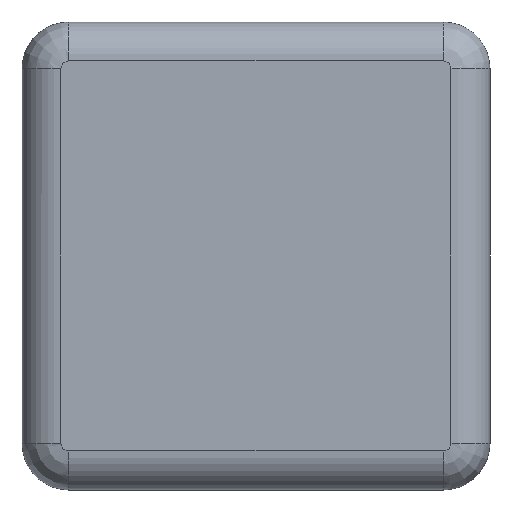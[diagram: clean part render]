
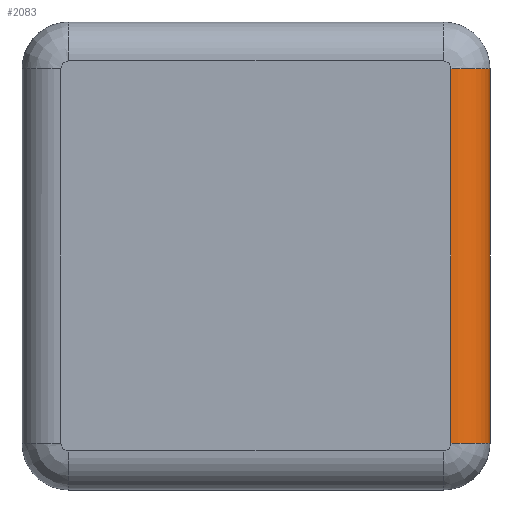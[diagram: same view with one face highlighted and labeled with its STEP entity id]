
A CAD part, front view. The second image highlights one B-rep face of the part: STEP entity #2083.
In plain terms, the highlighted cylindrical face has radius 2.5 mm (diameter 5 mm), a partial arc.
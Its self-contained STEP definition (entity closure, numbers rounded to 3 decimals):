
#613 = PLANE('',#614);
#614 = AXIS2_PLACEMENT_3D('',#615,#616,#617);
#615 = CARTESIAN_POINT('',(15.,-3.,12.));
#616 = DIRECTION('',(1.,-0.,0.));
#617 = DIRECTION('',(0.,0.,-1.));
#923 = VERTEX_POINT('',#924);
#924 = CARTESIAN_POINT('',(15.,-0.5,-12.));
#960 = SURFACE_OF_REVOLUTION('',#961,#974);
#961 = B_SPLINE_CURVE_WITH_KNOTS('',6,(#962,#963,#964,#965,#966,#967,
    #968,#969,#970,#971,#972,#973),.UNSPECIFIED.,.F.,.F.,(7,5,7),(
    4.712,5.498,6.283),.UNSPECIFIED.);
#962 = CARTESIAN_POINT('',(12.,-3.,-11.5));
#963 = CARTESIAN_POINT('',(12.,-3.,-11.173));
#964 = CARTESIAN_POINT('',(12.,-2.949,-10.846));
#965 = CARTESIAN_POINT('',(12.,-2.846,-10.528));
#966 = CARTESIAN_POINT('',(12.,-2.694,-10.231));
#967 = CARTESIAN_POINT('',(12.,-2.499,-9.964));
#968 = CARTESIAN_POINT('',(12.,-2.036,-9.501));
#969 = CARTESIAN_POINT('',(12.,-1.769,-9.306));
#970 = CARTESIAN_POINT('',(12.,-1.472,-9.154));
#971 = CARTESIAN_POINT('',(12.,-1.154,-9.051));
#972 = CARTESIAN_POINT('',(12.,-0.827,-9.));
#973 = CARTESIAN_POINT('',(12.,-0.5,-9.));
#974 = AXIS1_PLACEMENT('',#975,#976);
#975 = CARTESIAN_POINT('',(12.,-0.5,-12.));
#976 = DIRECTION('',(0.,1.,0.));
#990 = VERTEX_POINT('',#991);
#991 = CARTESIAN_POINT('',(15.,-0.5,12.));
#1012 = EDGE_CURVE('',#990,#923,#1013,.T.);
#1013 = SURFACE_CURVE('',#1014,(#1018,#1025),.PCURVE_S1.);
#1014 = LINE('',#1015,#1016);
#1015 = CARTESIAN_POINT('',(15.,-0.5,-12.));
#1016 = VECTOR('',#1017,1.);
#1017 = DIRECTION('',(0.,0.,-1.));
#1018 = PCURVE('',#613,#1019);
#1019 = DEFINITIONAL_REPRESENTATION('',(#1020),#1024);
#1020 = LINE('',#1021,#1022);
#1021 = CARTESIAN_POINT('',(24.,2.5));
#1022 = VECTOR('',#1023,1.);
#1023 = DIRECTION('',(1.,0.));
#1024 = ( GEOMETRIC_REPRESENTATION_CONTEXT(2) 
PARAMETRIC_REPRESENTATION_CONTEXT() REPRESENTATION_CONTEXT('2D SPACE',''
  ) );
#1025 = PCURVE('',#1026,#1031);
#1026 = CYLINDRICAL_SURFACE('',#1027,2.5);
#1027 = AXIS2_PLACEMENT_3D('',#1028,#1029,#1030);
#1028 = CARTESIAN_POINT('',(12.5,-0.5,12.));
#1029 = DIRECTION('',(0.,0.,1.));
#1030 = DIRECTION('',(1.,0.,0.));
#1031 = DEFINITIONAL_REPRESENTATION('',(#1032),#1036);
#1032 = LINE('',#1033,#1034);
#1033 = CARTESIAN_POINT('',(6.283,-24.));
#1034 = VECTOR('',#1035,1.);
#1035 = DIRECTION('',(0.,-1.));
#1036 = ( GEOMETRIC_REPRESENTATION_CONTEXT(2) 
PARAMETRIC_REPRESENTATION_CONTEXT() REPRESENTATION_CONTEXT('2D SPACE',''
  ) );
#1081 = SURFACE_OF_REVOLUTION('',#1082,#1095);
#1082 = B_SPLINE_CURVE_WITH_KNOTS('',6,(#1083,#1084,#1085,#1086,#1087,
    #1088,#1089,#1090,#1091,#1092,#1093,#1094),.UNSPECIFIED.,.F.,.F.,(7,
    5,7),(4.712,5.498,6.283),.UNSPECIFIED.);
#1083 = CARTESIAN_POINT('',(12.,-3.,12.5));
#1084 = CARTESIAN_POINT('',(12.,-3.,12.827));
#1085 = CARTESIAN_POINT('',(12.,-2.949,13.154));
#1086 = CARTESIAN_POINT('',(12.,-2.846,13.472));
#1087 = CARTESIAN_POINT('',(12.,-2.694,13.769));
#1088 = CARTESIAN_POINT('',(12.,-2.499,14.036));
#1089 = CARTESIAN_POINT('',(12.,-2.036,14.499));
#1090 = CARTESIAN_POINT('',(12.,-1.769,14.694));
#1091 = CARTESIAN_POINT('',(12.,-1.472,14.846));
#1092 = CARTESIAN_POINT('',(12.,-1.154,14.949));
#1093 = CARTESIAN_POINT('',(12.,-0.827,15.));
#1094 = CARTESIAN_POINT('',(12.,-0.5,15.));
#1095 = AXIS1_PLACEMENT('',#1096,#1097);
#1096 = CARTESIAN_POINT('',(12.,-0.5,12.));
#1097 = DIRECTION('',(0.,1.,0.));
#1275 = PLANE('',#1276);
#1276 = AXIS2_PLACEMENT_3D('',#1277,#1278,#1279);
#1277 = CARTESIAN_POINT('',(-12.,-3.,-12.));
#1278 = DIRECTION('',(0.,1.,0.));
#1279 = DIRECTION('',(0.,-0.,1.));
#1373 = VERTEX_POINT('',#1374);
#1374 = CARTESIAN_POINT('',(12.5,-3.,-12.));
#1400 = EDGE_CURVE('',#1373,#1401,#1403,.T.);
#1401 = VERTEX_POINT('',#1402);
#1402 = CARTESIAN_POINT('',(12.5,-3.,12.));
#1403 = SURFACE_CURVE('',#1404,(#1408,#1415),.PCURVE_S1.);
#1404 = LINE('',#1405,#1406);
#1405 = CARTESIAN_POINT('',(12.5,-3.,12.));
#1406 = VECTOR('',#1407,1.);
#1407 = DIRECTION('',(0.,-0.,1.));
#1408 = PCURVE('',#1275,#1409);
#1409 = DEFINITIONAL_REPRESENTATION('',(#1410),#1414);
#1410 = LINE('',#1411,#1412);
#1411 = CARTESIAN_POINT('',(24.,24.5));
#1412 = VECTOR('',#1413,1.);
#1413 = DIRECTION('',(1.,0.));
#1414 = ( GEOMETRIC_REPRESENTATION_CONTEXT(2) 
PARAMETRIC_REPRESENTATION_CONTEXT() REPRESENTATION_CONTEXT('2D SPACE',''
  ) );
#1415 = PCURVE('',#1026,#1416);
#1416 = DEFINITIONAL_REPRESENTATION('',(#1417),#1421);
#1417 = LINE('',#1418,#1419);
#1418 = CARTESIAN_POINT('',(4.712,0.));
#1419 = VECTOR('',#1420,1.);
#1420 = DIRECTION('',(0.,1.));
#1421 = ( GEOMETRIC_REPRESENTATION_CONTEXT(2) 
PARAMETRIC_REPRESENTATION_CONTEXT() REPRESENTATION_CONTEXT('2D SPACE',''
  ) );
#2083 = ADVANCED_FACE('',(#2084),#1026,.T.);
#2084 = FACE_BOUND('',#2085,.T.);
#2085 = EDGE_LOOP('',(#2086,#2108,#2109,#2131));
#2086 = ORIENTED_EDGE('',*,*,#2087,.F.);
#2087 = EDGE_CURVE('',#1401,#990,#2088,.T.);
#2088 = SURFACE_CURVE('',#2089,(#2094,#2101),.PCURVE_S1.);
#2089 = CIRCLE('',#2090,2.5);
#2090 = AXIS2_PLACEMENT_3D('',#2091,#2092,#2093);
#2091 = CARTESIAN_POINT('',(12.5,-0.5,12.));
#2092 = DIRECTION('',(-0.,0.,1.));
#2093 = DIRECTION('',(1.,0.,0.));
#2094 = PCURVE('',#1026,#2095);
#2095 = DEFINITIONAL_REPRESENTATION('',(#2096),#2100);
#2096 = LINE('',#2097,#2098);
#2097 = CARTESIAN_POINT('',(0.,0.));
#2098 = VECTOR('',#2099,1.);
#2099 = DIRECTION('',(1.,0.));
#2100 = ( GEOMETRIC_REPRESENTATION_CONTEXT(2) 
PARAMETRIC_REPRESENTATION_CONTEXT() REPRESENTATION_CONTEXT('2D SPACE',''
  ) );
#2101 = PCURVE('',#1081,#2102);
#2102 = DEFINITIONAL_REPRESENTATION('',(#2103),#2107);
#2103 = LINE('',#2104,#2105);
#2104 = CARTESIAN_POINT('',(1.571,0.));
#2105 = VECTOR('',#2106,1.);
#2106 = DIRECTION('',(0.,1.));
#2107 = ( GEOMETRIC_REPRESENTATION_CONTEXT(2) 
PARAMETRIC_REPRESENTATION_CONTEXT() REPRESENTATION_CONTEXT('2D SPACE',''
  ) );
#2108 = ORIENTED_EDGE('',*,*,#1400,.F.);
#2109 = ORIENTED_EDGE('',*,*,#2110,.F.);
#2110 = EDGE_CURVE('',#923,#1373,#2111,.T.);
#2111 = SURFACE_CURVE('',#2112,(#2117,#2124),.PCURVE_S1.);
#2112 = CIRCLE('',#2113,2.5);
#2113 = AXIS2_PLACEMENT_3D('',#2114,#2115,#2116);
#2114 = CARTESIAN_POINT('',(12.5,-0.5,-12.));
#2115 = DIRECTION('',(0.,0.,-1.));
#2116 = DIRECTION('',(-1.,0.,0.));
#2117 = PCURVE('',#1026,#2118);
#2118 = DEFINITIONAL_REPRESENTATION('',(#2119),#2123);
#2119 = LINE('',#2120,#2121);
#2120 = CARTESIAN_POINT('',(9.425,-24.));
#2121 = VECTOR('',#2122,1.);
#2122 = DIRECTION('',(-1.,0.));
#2123 = ( GEOMETRIC_REPRESENTATION_CONTEXT(2) 
PARAMETRIC_REPRESENTATION_CONTEXT() REPRESENTATION_CONTEXT('2D SPACE',''
  ) );
#2124 = PCURVE('',#960,#2125);
#2125 = DEFINITIONAL_REPRESENTATION('',(#2126),#2130);
#2126 = LINE('',#2127,#2128);
#2127 = CARTESIAN_POINT('',(1.571,9.425));
#2128 = VECTOR('',#2129,1.);
#2129 = DIRECTION('',(0.,-1.));
#2130 = ( GEOMETRIC_REPRESENTATION_CONTEXT(2) 
PARAMETRIC_REPRESENTATION_CONTEXT() REPRESENTATION_CONTEXT('2D SPACE',''
  ) );
#2131 = ORIENTED_EDGE('',*,*,#1012,.F.);
